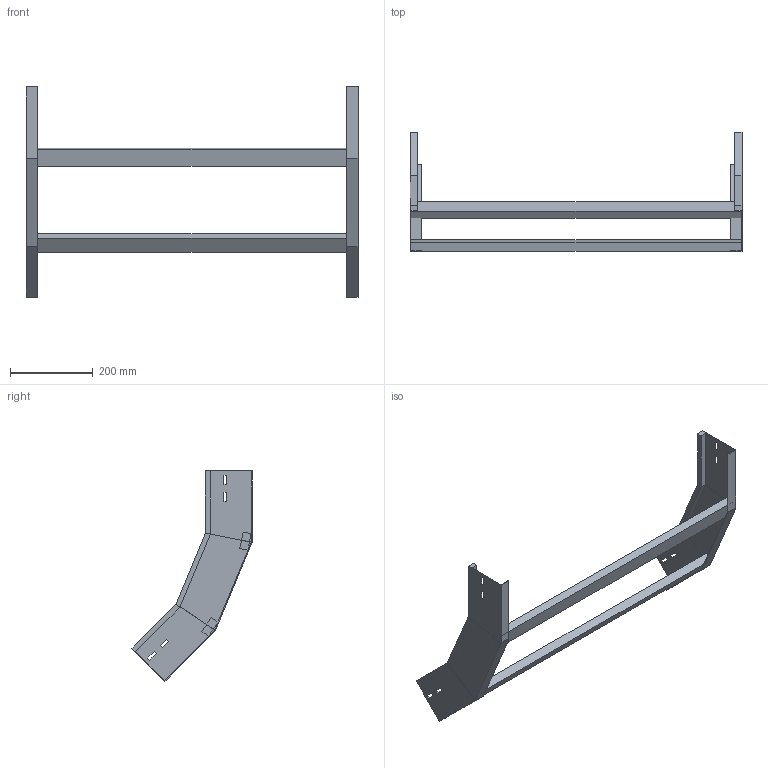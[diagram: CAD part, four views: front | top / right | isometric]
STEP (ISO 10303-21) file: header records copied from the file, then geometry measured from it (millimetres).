
FILE_DESCRIPTION (( 'STEP AP214' ), '1' );
FILE_NAME ('A2X31B3J800XX.step', '2025-03-20T10:06:42', ( '' ), ( '' ), 'SwSTEP 2.0', 'SolidWorks 2023', '' );
FILE_SCHEMA (( 'AUTOMOTIVE_DESIGN' ));
Length unit declared in the file: millimetre
Products named in the file (3): TRAVERSINO_800; LONGH.SALITA_45°_H112.5_R300; A2X31B3J800XX
Assembly tree (4 placements, depth 2):
  A2X31B3J800XX
    LONGH.SALITA_45°_H112.5_R300  x2
    TRAVERSINO_800  x2
Bounding box: 800 x 289.26 x 506.29 mm (x, y, z)
Volume: 1770600.5 mm3; surface area: 527355.8 mm2
Topology: 4 solids, 4 shells, 96 faces, 232 edges, 144 vertices
Faces by surface type: plane 96
Entity records: 1472 total; most frequent: CARTESIAN_POINT 243, ORIENTED_EDGE 232, DIRECTION 226, VECTOR 116, EDGE_CURVE 116, LINE 116, VERTEX_POINT 72, EDGE_LOOP 56
